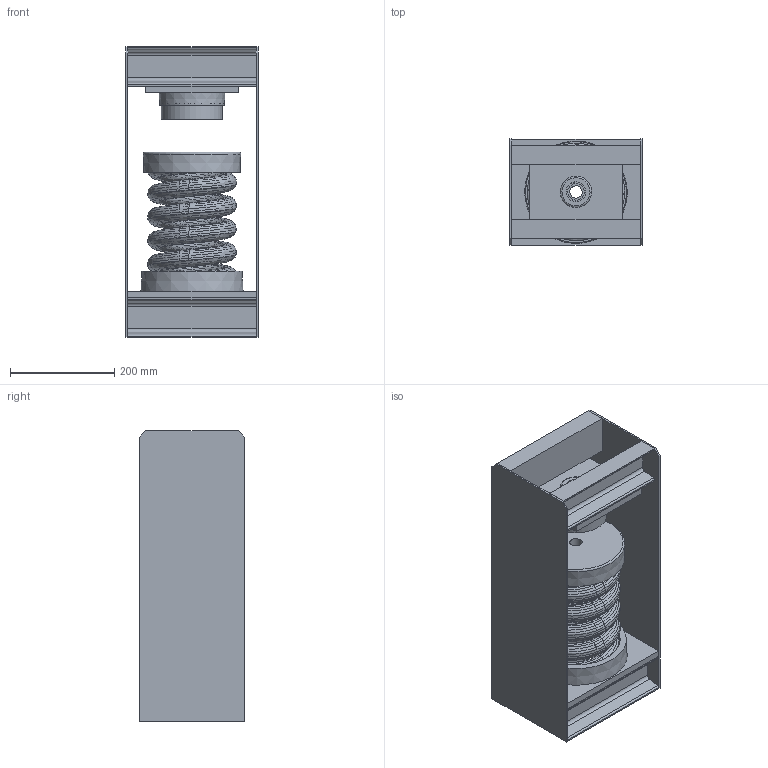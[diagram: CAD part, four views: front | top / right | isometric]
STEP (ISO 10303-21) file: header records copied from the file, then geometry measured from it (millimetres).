
FILE_DESCRIPTION(/* description */ (''),/* implementation_level */ '2;1');
FILE_NAME(/* name */ 'C:\001_Work\Designs\HANGER BOXES\30N 100 SERIES\30N-114-115\30N-115.stp',/* time_stamp */ '2015-06-09T12:20:05-04:00',/* author */ ('rramoutar'),/* organization */ ('Mason Industries Inc.'),/* preprocessor_version */ 'ST-DEVELOPER v15.2',/* originating_system */ 'Autodesk Inventor 2014',/* authorisation */ '');
FILE_SCHEMA (('AUTOMOTIVE_DESIGN { 1 0 10303 214 3 1 1 }'));
Products named in the file (1): 30N-115
Bounding box: 254 x 203.2 x 558.8 mm (x, y, z)
Volume: 3908440.8 mm3; surface area: 1750575.6 mm2
Topology: 15 solids, 15 shells, 239 faces, 585 edges, 390 vertices
Faces by surface type: plane 136, bspline 44, cylinder 42, cone 15, torus 2
Full cylindrical faces by diameter (mm): 23.812 x1, 31.75 x1, 38.1 x2, 47.625 x4, 60.325 x1, 107.95 x3, 112.712 x1, 114.3 x2, 117.475 x3, 122.237 x2, 169.862 x1, 174.625 x2, 176.212 x1
Entity records: 41394 total; most frequent: CARTESIAN_POINT 35852, ORIENTED_EDGE 1108, DIRECTION 926, EDGE_CURVE 554, VERTEX_POINT 388, AXIS2_PLACEMENT_3D 314, EDGE_LOOP 300, LINE 298
